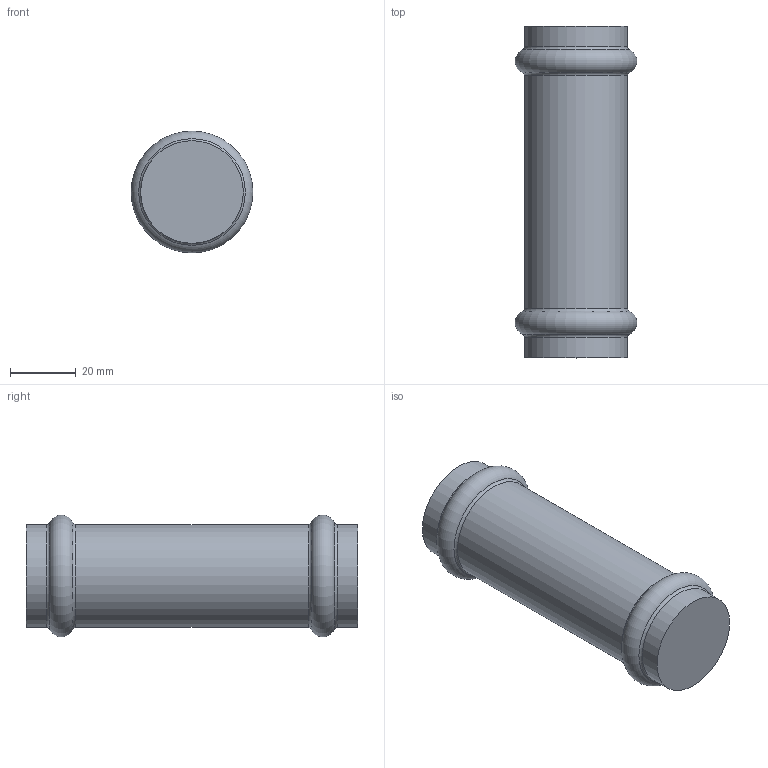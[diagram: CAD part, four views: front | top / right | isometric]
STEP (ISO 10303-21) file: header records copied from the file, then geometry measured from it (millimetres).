
FILE_DESCRIPTION(('STEP AP203'), '1');
FILE_NAME('VTi.904.I.002828', '', ('UNSPECIFIED'), ('UNSPECIFIED'), 'C3D Converter', 'C3D Toolkit', '');
FILE_SCHEMA(('CONFIG_CONTROL_DESIGN'));
Length unit declared in the file: millimetre
Bounding box: 37.09 x 101 x 37.09 mm (x, y, z)
Volume: 80952.3 mm3; surface area: 12163.7 mm2
Topology: 1 solids, 1 shells, 11 faces, 19 edges, 10 vertices
Faces by surface type: torus 6, cylinder 3, plane 2
Full cylindrical faces by diameter (mm): 31.26 x3
Entity records: 254 total; most frequent: DIRECTION 44, CARTESIAN_POINT 32, AXIS2_PLACEMENT_3D 22, EDGE_LOOP 20, ORIENTED_EDGE 20, FACE_OUTER_BOUND 18, ADVANCED_FACE 11, EDGE_CURVE 10
